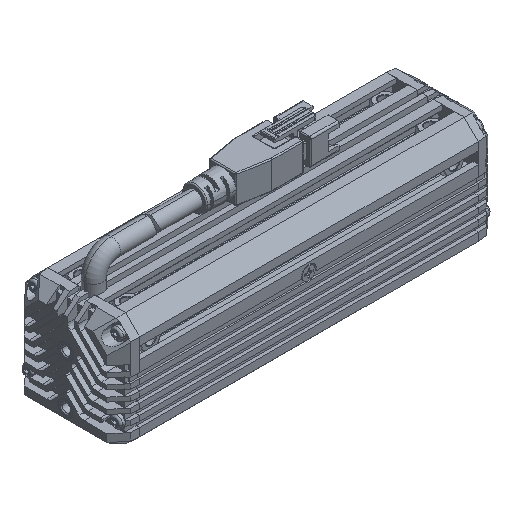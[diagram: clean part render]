
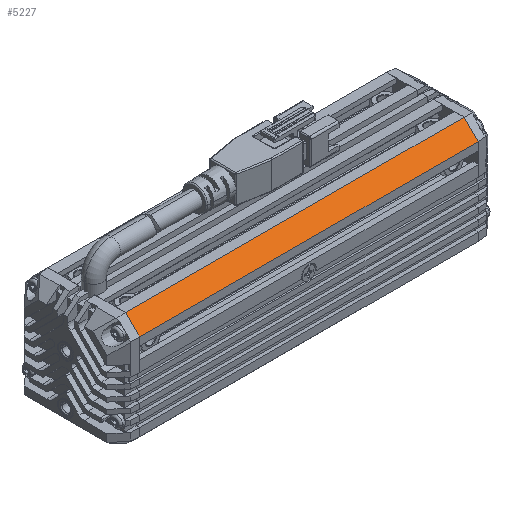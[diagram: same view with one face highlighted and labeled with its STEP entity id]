
A CAD part, isometric view. The second image highlights one B-rep face of the part: STEP entity #5227.
In plain terms, the highlighted planar face has unit normal (0, -0.707, 0.707).
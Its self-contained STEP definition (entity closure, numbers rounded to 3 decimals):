
#205=DIRECTION('',(0.,-0.707,-0.707));
#206=VECTOR('',#205,5.657);
#207=CARTESIAN_POINT('',(-48.,-11.,15.));
#208=LINE('',#207,#206);
#635=DIRECTION('',(0.,-0.707,-0.707));
#636=VECTOR('',#635,5.657);
#637=CARTESIAN_POINT('',(48.,-11.,15.));
#638=LINE('',#637,#636);
#1844=DIRECTION('',(1.,0.,0.));
#1845=VECTOR('',#1844,96.);
#1846=CARTESIAN_POINT('',(-48.,-11.,15.));
#1847=LINE('',#1846,#1845);
#1848=DIRECTION('',(1.,0.,0.));
#1849=VECTOR('',#1848,96.);
#1850=CARTESIAN_POINT('',(-48.,-15.,11.));
#1851=LINE('',#1850,#1849);
#2318=CARTESIAN_POINT('',(-48.,-11.,15.));
#2319=VERTEX_POINT('',#2318);
#2320=CARTESIAN_POINT('',(-48.,-15.,11.));
#2321=VERTEX_POINT('',#2320);
#2358=CARTESIAN_POINT('',(48.,-11.,15.));
#2359=VERTEX_POINT('',#2358);
#2360=CARTESIAN_POINT('',(48.,-15.,11.));
#2361=VERTEX_POINT('',#2360);
#5215=CARTESIAN_POINT('',(-48.,-11.,15.));
#5216=DIRECTION('',(0.,-0.707,0.707));
#5217=DIRECTION('',(0.,-0.707,-0.707));
#5218=AXIS2_PLACEMENT_3D('',#5215,#5216,#5217);
#5219=PLANE('',#5218);
#5220=ORIENTED_EDGE('',*,*,#3036,.F.);
#5221=ORIENTED_EDGE('',*,*,#5210,.T.);
#5222=ORIENTED_EDGE('',*,*,#3369,.T.);
#5224=ORIENTED_EDGE('',*,*,#5223,.F.);
#5225=EDGE_LOOP('',(#5220,#5221,#5222,#5224));
#5226=FACE_OUTER_BOUND('',#5225,.F.);
#3036=EDGE_CURVE('',#2319,#2321,#208,.T.);
#3369=EDGE_CURVE('',#2359,#2361,#638,.T.);
#5210=EDGE_CURVE('',#2319,#2359,#1847,.T.);
#5223=EDGE_CURVE('',#2321,#2361,#1851,.T.);
#5227=ADVANCED_FACE('',(#5226),#5219,.T.);
